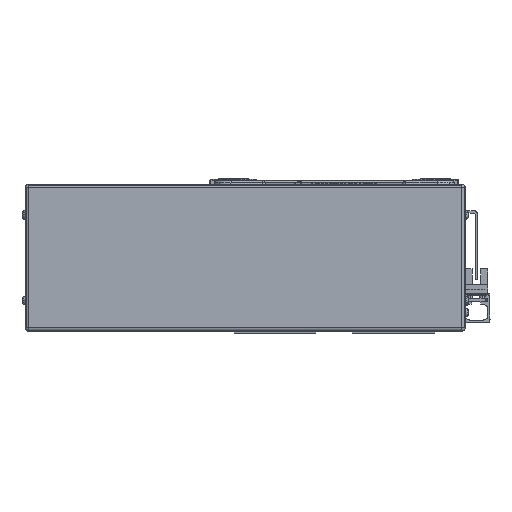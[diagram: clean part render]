
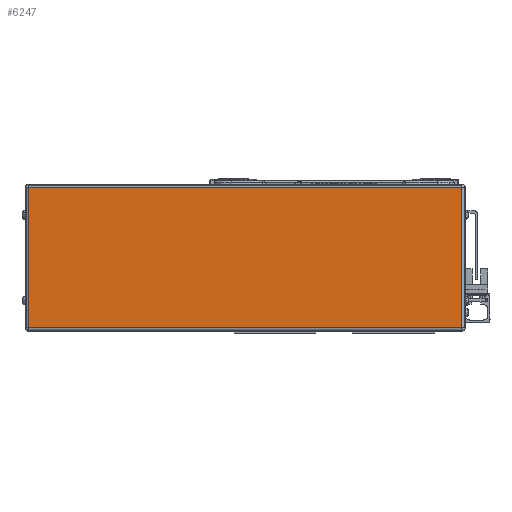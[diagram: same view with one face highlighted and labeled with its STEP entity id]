
A CAD part, left-side view. The second image highlights one B-rep face of the part: STEP entity #6247.
In plain terms, the highlighted planar face has unit normal (-1, 0, 0).
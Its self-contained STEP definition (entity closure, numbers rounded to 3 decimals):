
#6247=ADVANCED_FACE('',(#13253),#13254,.F.);
#13253=FACE_OUTER_BOUND('',#22338,.T.);
#13254=PLANE('',#22339);
#22338=EDGE_LOOP('',(#40072,#40073,#40074,#40075));
#22339=AXIS2_PLACEMENT_3D('',#40076,#40077,#40078);
#40072=ORIENTED_EDGE('',*,*,#53730,.T.);
#40073=ORIENTED_EDGE('',*,*,#54780,.T.);
#40074=ORIENTED_EDGE('',*,*,#53516,.T.);
#40075=ORIENTED_EDGE('',*,*,#49358,.T.);
#40076=CARTESIAN_POINT('',(-45.,180.5,0.));
#40077=DIRECTION('',(1.0,0.,0.));
#40078=DIRECTION('',(0.,0.,1.0));
#49358=EDGE_CURVE('',#59450,#59448,#59451,.T.);
#53516=EDGE_CURVE('',#65822,#59450,#65823,.T.);
#53730=EDGE_CURVE('',#59448,#56341,#66107,.T.);
#54780=EDGE_CURVE('',#56341,#65822,#67450,.T.);
#56341=VERTEX_POINT('',#69164);
#59448=VERTEX_POINT('',#73523);
#59450=VERTEX_POINT('',#73525);
#59451=LINE('',#73526,#73527);
#65822=VERTEX_POINT('',#82219);
#65823=LINE('',#82220,#82221);
#66107=LINE('',#82616,#82617);
#67450=LINE('',#84596,#84597);
#69164=CARTESIAN_POINT('',(-45.,178.5,-41.));
#73523=CARTESIAN_POINT('',(-45.,178.5,41.));
#73525=CARTESIAN_POINT('',(-45.,-74.5,41.));
#73526=CARTESIAN_POINT('',(-45.,180.5,41.));
#73527=VECTOR('',#89214,10.0);
#82219=CARTESIAN_POINT('',(-45.,-74.5,-41.));
#82220=CARTESIAN_POINT('',(-45.,-74.5,0.));
#82221=VECTOR('',#94707,10.0);
#82616=CARTESIAN_POINT('',(-45.,178.5,0.));
#82617=VECTOR('',#94962,10.0);
#84596=CARTESIAN_POINT('',(-45.,180.5,-41.));
#84597=VECTOR('',#96127,10.0);
#89214=DIRECTION('',(0.,1.0,0.));
#94707=DIRECTION('',(0.,0.,1.0));
#94962=DIRECTION('',(0.,0.,-1.0));
#96127=DIRECTION('',(0.,-1.0,0.));
